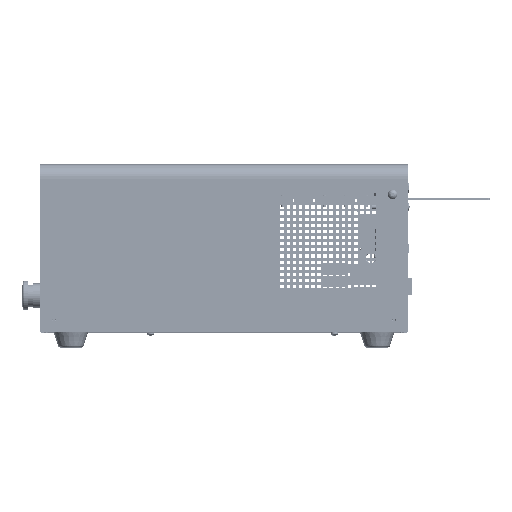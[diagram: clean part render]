
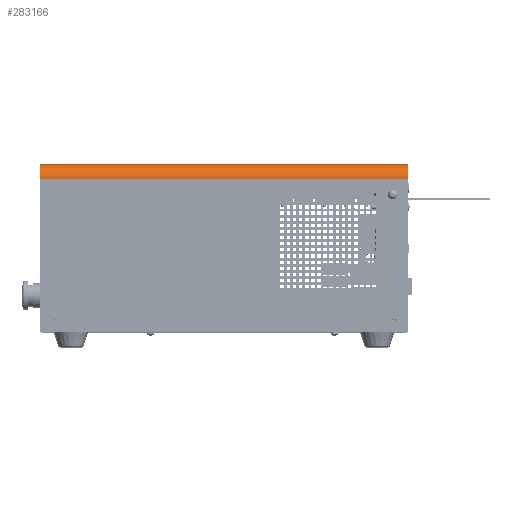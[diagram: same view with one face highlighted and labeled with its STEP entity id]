
A CAD part, top view. The second image highlights one B-rep face of the part: STEP entity #283166.
In plain terms, the highlighted cylindrical face has radius 11.5 mm (diameter 23 mm), a partial arc.
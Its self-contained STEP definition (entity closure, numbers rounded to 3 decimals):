
#23573 = VERTEX_POINT ( 'NONE', #40422 ) ;
#23676 = VERTEX_POINT ( 'NONE', #41162 ) ;
#40422 = CARTESIAN_POINT ( 'NONE',  ( -150., 137., 90.5 ) ) ;
#41162 = CARTESIAN_POINT ( 'NONE',  ( 150., 137., 90.5 ) ) ;
#70135 = EDGE_LOOP ( 'NONE', ( #361559, #361567, #361580, #361586 ) ) ;
#82058 = CARTESIAN_POINT ( 'NONE',  ( 150., 125.5, 102. ) ) ;
#83014 = CARTESIAN_POINT ( 'NONE',  ( -150., 125.5, 102. ) ) ;
#133298 = VERTEX_POINT ( 'NONE', #82058 ) ;
#133458 = VERTEX_POINT ( 'NONE', #83014 ) ;
#135175 = EDGE_CURVE ( 'NONE', #23573, #23676, #256881, .T. ) ;
#135227 = EDGE_CURVE ( 'NONE', #133298, #23676, #257089, .T. ) ;
#135231 = EDGE_CURVE ( 'NONE', #23573, #133458, #257093, .T. ) ;
#196867 = LINE ( 'NONE', #462609, #196876 ) ;
#196876 = VECTOR ( 'NONE', #462617, 1000. ) ;
#217896 = EDGE_CURVE ( 'NONE', #133458, #133298, #196867, .T. ) ;
#240030 = DIRECTION ( 'NONE',  ( 1., 0., 0. ) ) ;
#240103 = CARTESIAN_POINT ( 'NONE',  ( 150., 137., 90.5 ) ) ;
#240583 = CARTESIAN_POINT ( 'NONE',  ( 150., 125.5, 90.5 ) ) ;
#240588 = DIRECTION ( 'NONE',  ( -1., 0., 0. ) ) ;
#240592 = DIRECTION ( 'NONE',  ( 0., 0., -1. ) ) ;
#240633 = CARTESIAN_POINT ( 'NONE',  ( -150., 125.5, 90.5 ) ) ;
#240639 = DIRECTION ( 'NONE',  ( 1., 0., 0. ) ) ;
#240645 = DIRECTION ( 'NONE',  ( 0., 0., -1. ) ) ;
#256881 = LINE ( 'NONE', #240103, #256913 ) ;
#256913 = VECTOR ( 'NONE', #240030, 1000. ) ;
#257089 = CIRCLE ( 'NONE', #284747, 11.5 ) ;
#257093 = CIRCLE ( 'NONE', #284764, 11.5 ) ;
#283166 = ADVANCED_FACE ( 'NONE', ( #453169 ), #453184, .T. ) ;
#284747 = AXIS2_PLACEMENT_3D ( 'NONE', #240583, #240588, #240592 ) ;
#284764 = AXIS2_PLACEMENT_3D ( 'NONE', #240633, #240639, #240645 ) ;
#361559 = ORIENTED_EDGE ( 'NONE', *, *, #135175, .F. ) ;
#361567 = ORIENTED_EDGE ( 'NONE', *, *, #135231, .T. ) ;
#361580 = ORIENTED_EDGE ( 'NONE', *, *, #217896, .T. ) ;
#361586 = ORIENTED_EDGE ( 'NONE', *, *, #135227, .T. ) ;
#448922 = AXIS2_PLACEMENT_3D ( 'NONE', #505267, #505257, #505249 ) ;
#453169 = FACE_OUTER_BOUND ( 'NONE', #70135, .T. ) ;
#453184 = CYLINDRICAL_SURFACE ( 'NONE', #448922, 11.5 ) ;
#462609 = CARTESIAN_POINT ( 'NONE',  ( 150., 125.5, 102. ) ) ;
#462617 = DIRECTION ( 'NONE',  ( 1., 0., 0. ) ) ;
#505249 = DIRECTION ( 'NONE',  ( 0., 0., -1. ) ) ;
#505257 = DIRECTION ( 'NONE',  ( -1., 0., 0. ) ) ;
#505267 = CARTESIAN_POINT ( 'NONE',  ( 619.779, 125.5, 90.5 ) ) ;
